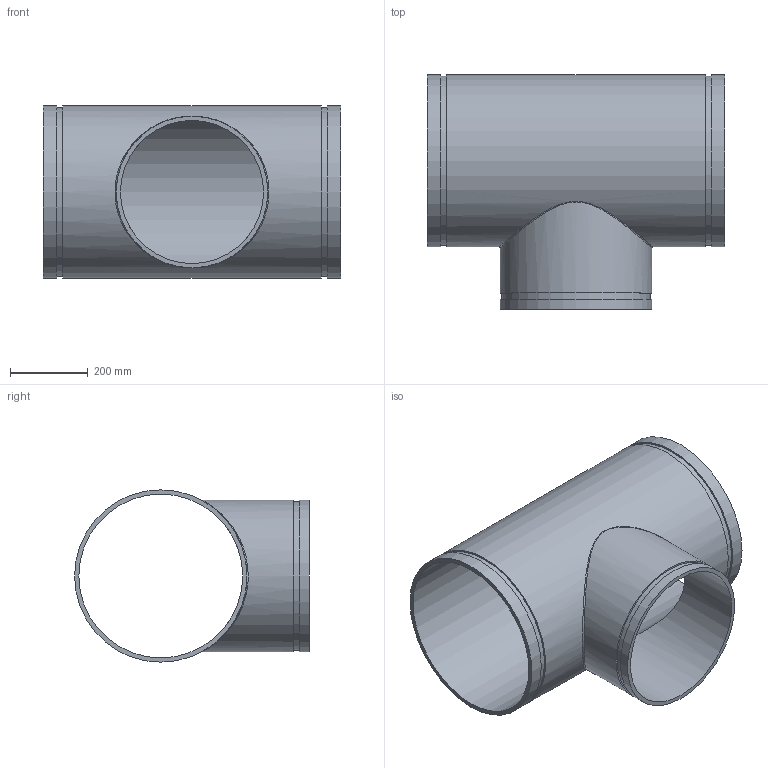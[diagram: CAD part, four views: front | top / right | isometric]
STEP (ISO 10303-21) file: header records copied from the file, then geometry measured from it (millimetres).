
FILE_DESCRIPTION(/* description */ ('VIC REDUCING TEE No 25-C','CAx-IF Rec.Pracs.---Representation and Presentation of Product Manufacturing Information (PMI)---4.0---2014-10-13'),/* implementation_level */ '2;1');
FILE_NAME(/* name */ 'C:\Users\Vjadhav\AppData\Roaming\Autodesk\ApplicationPlugins\Back Up\Victaulic_AWWA_Tee Reducing_No 25-C (DRG)\Victaulic_AWWA_Tee Reducing_No 25-C (DRG)_16.0x14.0 (400x350).stp',/* time_stamp */ '2020-08-18T18:18:22+06:00',/* author */ ('CORINNE GRAY'),/* organization */ ('Victaulic'),/* preprocessor_version */ 'ST-DEVELOPER v17.2',/* originating_system */ 'Autodesk Inventor 2019',/* authorisation */ '');
FILE_SCHEMA (('AP242_MANAGED_MODEL_BASED_3D_ENGINEERING_MIM_LF { 1 0 10303 442 1 1 4 }'));
Length unit declared in the file: inch
Products named in the file (1): 25C-16.0x14.0
Bounding box: 762 x 601.98 x 441.96 mm (x, y, z)
Volume: 12338005.7 mm3; surface area: 2394065.6 mm2
Topology: 1 solids, 1 shells, 20 faces, 44 edges, 33 vertices
Faces by surface type: cylinder 10, plane 9, bspline 1
Full cylindrical faces by diameter (mm): 367.284 x1, 380.213 x1, 388.62 x2, 420.116 x1, 433.4 x2, 441.96 x3
Entity records: 1156 total; most frequent: CARTESIAN_POINT 532, DIRECTION 135, ORIENTED_EDGE 90, AXIS2_PLACEMENT_3D 62, EDGE_CURVE 45, VERTEX_POINT 34, EDGE_LOOP 31, CIRCLE 29
